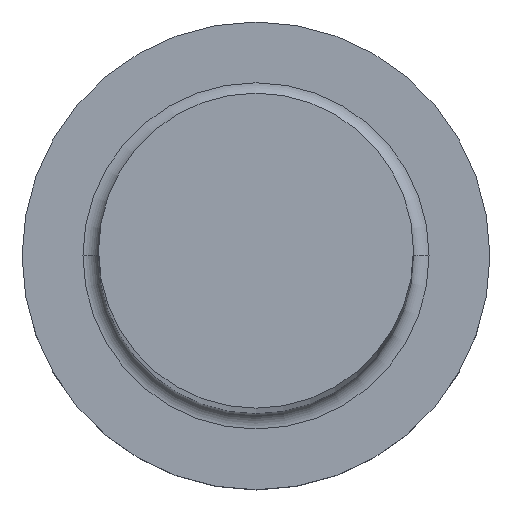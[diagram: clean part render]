
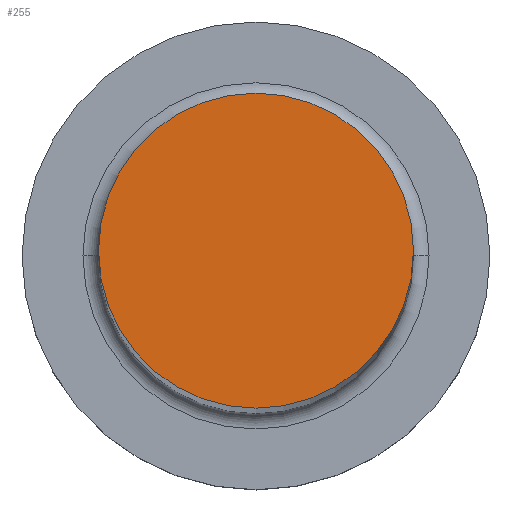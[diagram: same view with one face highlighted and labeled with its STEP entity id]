
A CAD part, top view. The second image highlights one B-rep face of the part: STEP entity #255.
In plain terms, the highlighted planar face has unit normal (0, 0, 1).
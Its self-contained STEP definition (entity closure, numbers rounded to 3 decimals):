
#1 = EDGE_LOOP ( 'NONE', ( #26, #205 ) ) ;
#26 = ORIENTED_EDGE ( 'NONE', *, *, #128, .F. ) ;
#28 = AXIS2_PLACEMENT_3D ( 'NONE', #93, #134, #51 ) ;
#51 = DIRECTION ( 'NONE',  ( -1., 0., 0. ) ) ;
#66 = VERTEX_POINT ( 'NONE', #71 ) ;
#69 = VERTEX_POINT ( 'NONE', #203 ) ;
#71 = CARTESIAN_POINT ( 'NONE',  ( -5.05, 0., 100. ) ) ;
#90 = CIRCLE ( 'NONE', #162, 5.05 ) ;
#93 = CARTESIAN_POINT ( 'NONE',  ( 0., 0., 100. ) ) ;
#119 = DIRECTION ( 'NONE',  ( -1., 0., 0. ) ) ;
#128 = EDGE_CURVE ( 'NONE', #66, #69, #237, .T. ) ;
#134 = DIRECTION ( 'NONE',  ( 0., 0., -1. ) ) ;
#143 = EDGE_CURVE ( 'NONE', #69, #66, #90, .T. ) ;
#156 = FACE_OUTER_BOUND ( 'NONE', #1, .T. ) ;
#162 = AXIS2_PLACEMENT_3D ( 'NONE', #192, #253, #214 ) ;
#192 = CARTESIAN_POINT ( 'NONE',  ( 0., 0., 100. ) ) ;
#194 = PLANE ( 'NONE',  #245 ) ;
#203 = CARTESIAN_POINT ( 'NONE',  ( 5.05, 0., 100. ) ) ;
#205 = ORIENTED_EDGE ( 'NONE', *, *, #143, .F. ) ;
#214 = DIRECTION ( 'NONE',  ( -1., 0., 0. ) ) ;
#218 = CARTESIAN_POINT ( 'NONE',  ( 0., 0., 100. ) ) ;
#237 = CIRCLE ( 'NONE', #28, 5.05 ) ;
#241 = DIRECTION ( 'NONE',  ( 0., 0., -1. ) ) ;
#245 = AXIS2_PLACEMENT_3D ( 'NONE', #218, #241, #119 ) ;
#253 = DIRECTION ( 'NONE',  ( 0., 0., -1. ) ) ;
#255 = ADVANCED_FACE ( 'NONE', ( #156 ), #194, .F. ) ;
